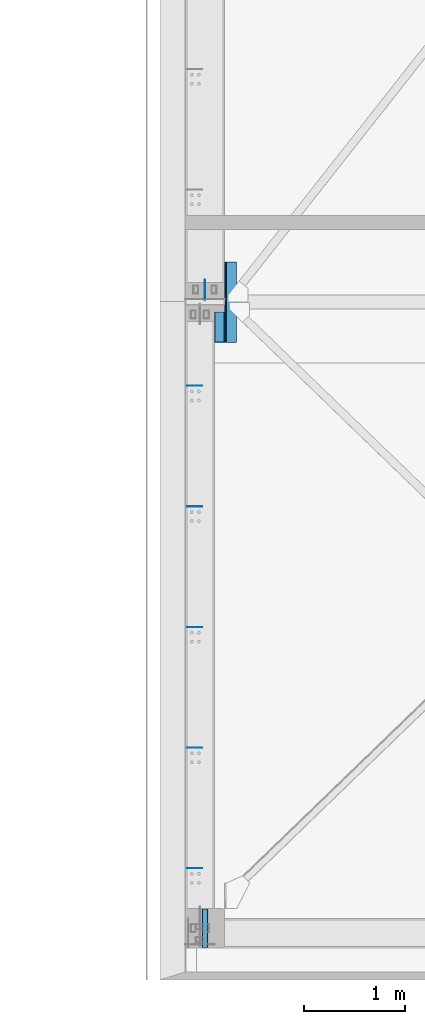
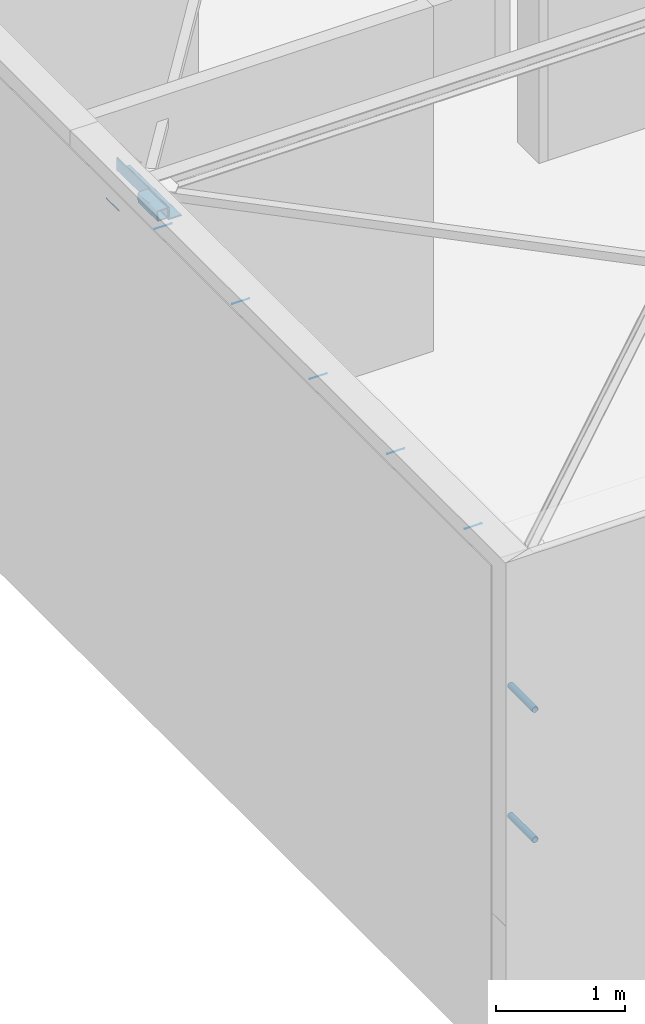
# One storey, part 11 of 186: 10 beams.
"""IFC4X3_ADD2 building model written with IfcOpenShell, lengths in millimetres."""

from ifc_helpers import new_model, si_unit, direction, frame, frame_2d, origin_with_axes, place, context, subcontext, project, spatial, rectangle, hollow_rectangle, hollow_circle, l_section, extrude, material, element, save


model = new_model("IFC4X3_ADD2")

# Units and contexts
model_context = context("Model", 3, precision=1e-05, world=origin_with_axes(), true_north=direction((0.0, 1.0)))
body_context = subcontext(model_context, "Body", "Model", "MODEL_VIEW")
ifc_project = project(units=[si_unit("LENGTHUNIT", "METRE", prefix="MILLI"), si_unit("AREAUNIT", "SQUARE_METRE"), si_unit("VOLUMEUNIT", "CUBIC_METRE"), si_unit("PLANEANGLEUNIT", "RADIAN"), si_unit("TIMEUNIT", "SECOND"), si_unit("MASSUNIT", "GRAM")], contexts=[model_context])

# Site, building, storey
site_placement = place(None, origin_with_axes())
site = spatial("IfcSite", under=ifc_project, at=site_placement, Name="Site", CompositionType="ELEMENT")
building_placement = place(site_placement, origin_with_axes())
building = spatial("IfcBuilding", under=site, at=building_placement, Name="IFC Building Story")
storey_placement = place(building_placement, frame((0.0, 0.0, 4370.0), z_axis=(0.0, 0.0, 1.0), x_axis=(1.0, 0.0, 0.0)))
storey = spatial("IfcBuildingStorey", under=building, at=storey_placement, Name="ETAGE 10 (1)", Elevation=4370.0)

# Beams
ifc_material_1 = material(Name="BS_28_Métal")
beam_1_placement = place(storey_placement, frame((33656.18769887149, -8435.014207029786, 3037.755712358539), z_axis=(0.0, 0.9998875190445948, -0.01499830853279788), x_axis=(0.0, 0.01499830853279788, 0.9998875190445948)))
element("IfcBeam", 1, at=beam_1_placement, inside=storey, material=ifc_material_1, Name="C_28_104 - Cornière symétrique:L120x120x12", ObjectType="L120x120x12", context=body_context, shape_type="SweptSolid", body=[
    extrude(l_section(Depth=120.0000000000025, Width=120.0, Thickness=12.00000000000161, FilletRadius=13.0000000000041, EdgeRadius=4.799999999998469, LegSlope=0.0, at=frame_2d((0.0, 5.95523630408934e-12), x_axis=(1.0, 0.0))), origin_with_axes(), (0.0, 0.0, 1.0), 799.9999999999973),
])
beam_2_placement = place(storey_placement, frame((33546.18769887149, -8434.774309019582, 3047.753296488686), z_axis=(0.0, 0.9998996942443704, -0.01416338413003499), x_axis=(1.0, 0.0, 0.0)))
element("IfcBeam", 2, at=beam_2_placement, inside=storey, material=ifc_material_1, Name="SHS (EN 10219-2):SHS100x6", ObjectType="SHS100x6", context=body_context, shape_type="SweptSolid", body=[
    extrude(hollow_rectangle(XDim=100.0000000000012, YDim=100.0, WallThickness=6.0, InnerFilletRadius=6.0, OuterFilletRadius=12.0, at=frame_2d((0.0, 5.95523630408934e-12), x_axis=(1.0, 0.0))), origin_with_axes(), (0.0, 0.0, 1.0), 299.8999999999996),
])
ifc_material_2 = material(Name="STEEL/Accessory_invisible 261")
beam_3_placement = place(storey_placement, frame((33400.6876988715, -7915.03074139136, 2878.32378527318), z_axis=(1.0, 0.0, 0.0), x_axis=(0.0, -0.0155341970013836, -0.9998793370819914)))
element("IfcBeam", 3, at=beam_3_placement, inside=storey, material=ifc_material_2, Name="BEK4", ObjectType="11*1 3", context=body_context, shape_type="SweptSolid", body=[
    extrude(rectangle(XDim=10.9999999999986, YDim=200.238007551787, at=frame_2d((0.0, 5.95523630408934e-12), x_axis=(1.0, 0.0))), origin_with_axes(), (0.0, 0.0, 1.0), 1.000000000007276),
])
for number, where, z_axis, x_axis, name in (
    (4, (33375.683164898, -13668.9770140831, 3361.88871397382), (-1.0, 0.0, 0.0), (0.0, 0.9998873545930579, -0.01500926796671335), "54"),
    (5, (33375.683164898, -12468.9762511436, 3343.234713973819), (-1.0, 0.0, 0.0), (0.0, 0.9998873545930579, -0.01500926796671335), "54"),
    (6, (33375.683164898, -11268.9773955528, 3324.58371397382), (-1.0, 0.0, 0.0), (0.0, 0.9998873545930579, -0.01500926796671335), "54"),
    (7, (33375.683164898, -10068.9766326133, 3305.93071397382), (-1.0, 0.0, 0.0), (0.0, 0.9998873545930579, -0.01500926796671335), "54"),
    (8, (33375.683164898, -8868.975869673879, 3287.27871397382), (-1.0, 0.0, 0.0), (0.0, 0.9998873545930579, -0.01500926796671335), "54"),
):
    element("IfcBeam", number, at=place(storey_placement, frame(where, z_axis=z_axis, x_axis=x_axis)), inside=storey, material=ifc_material_2, Name=name, ObjectType="1*1 3", context=body_context, shape_type="SweptSolid", body=[
        extrude(rectangle(XDim=0.9999999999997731, YDim=0.9999999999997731, at=frame_2d((0.0, 5.95523630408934e-12), x_axis=(1.0, 0.0))), origin_with_axes(), (0.0, 0.0, 1.0), 150.0),
    ])
ifc_material_3 = material(Name="STEEL/Accessory_PVC")
for number, where, z_axis, x_axis, name in (
    (9, (33401.188, -14456.9999999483, 840.0), (0.0, 1.0, 0.0), (1.0, 0.0, 0.0), "PS13"),
    (10, (33401.188, -14456.9999999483, 2070.0), (0.0, 1.0, 0.0), (1.0, 0.0, 0.0), "PS13"),
):
    element("IfcBeam", number, at=place(storey_placement, frame(where, z_axis=z_axis, x_axis=x_axis)), inside=storey, material=ifc_material_3, Name=name, ObjectType="O56*3", context=body_context, shape_type="SweptSolid", body=[
        extrude(hollow_circle(Radius=28.0, WallThickness=3.0, at=frame_2d((0.0, 5.95523630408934e-12), x_axis=(1.0, 0.0))), origin_with_axes(), (0.0, 0.0, 1.0), 384.0),
    ])

save(model, "model.ifc")
